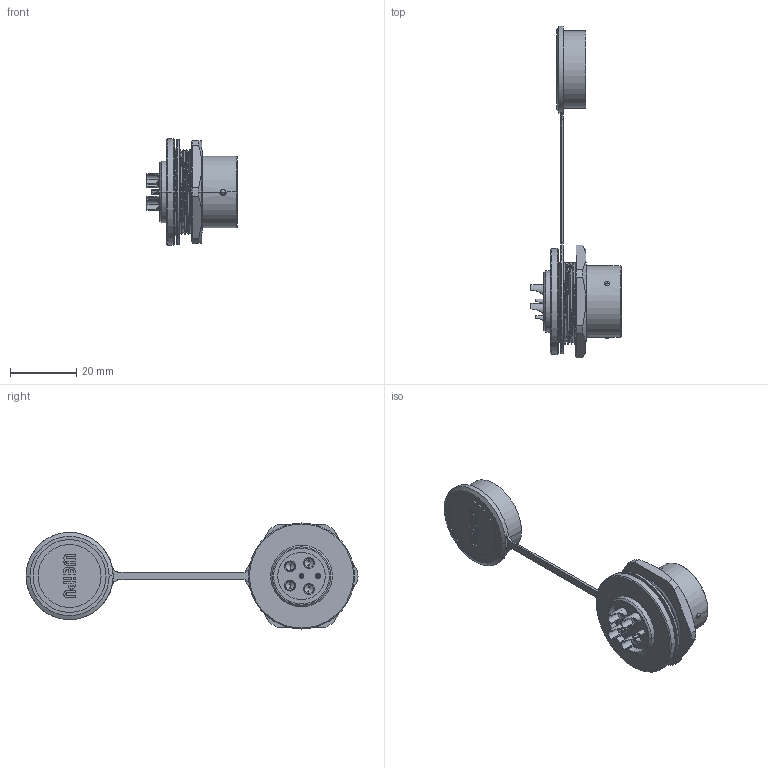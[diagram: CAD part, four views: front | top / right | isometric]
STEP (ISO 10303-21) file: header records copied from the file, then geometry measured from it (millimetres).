
FILE_DESCRIPTION((''),'2;1');
FILE_NAME('SF2015-S6','2021-03-23T',('Administrator'),(''),'CREO PARAMETRIC BY PTC INC, 2016130','CREO PARAMETRIC BY PTC INC, 2016130','');
FILE_SCHEMA(('AUTOMOTIVE_DESIGN { 1 0 10303 214 1 1 1 1 }'));
Length unit declared in the file: millimetre
Products named in the file (1): SF2015-S6
Bounding box: 27.2 x 100.2 x 32 mm (x, y, z)
Volume: 11318.7 mm3; surface area: 8821.9 mm2
Topology: 1 solids, 1 shells, 283 faces, 788 edges, 528 vertices
Faces by surface type: cylinder 101, plane 92, cone 44, bspline 27, sphere 12, torus 7
Entity records: 11611 total; most frequent: CARTESIAN_POINT 4371, ORIENTED_EDGE 1536, DIRECTION 1470, EDGE_CURVE 768, AXIS2_PLACEMENT_3D 576, VERTEX_POINT 528, EDGE_LOOP 324, CIRCLE 320
